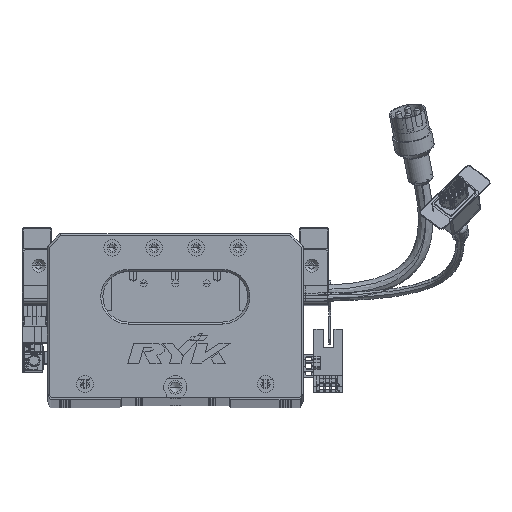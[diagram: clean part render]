
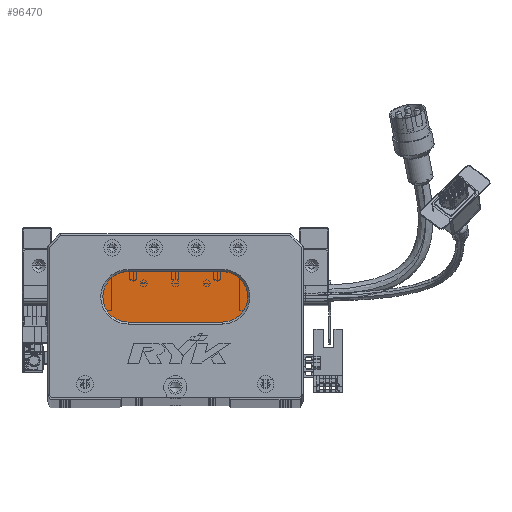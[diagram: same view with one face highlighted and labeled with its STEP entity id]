
A CAD part, top view. The second image highlights one B-rep face of the part: STEP entity #96470.
In plain terms, the highlighted planar face has unit normal (0, 0, 1) as drawn and (0, 0, -1) by its records, which use the part's own axes.
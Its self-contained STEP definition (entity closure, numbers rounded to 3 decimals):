
#2270 = DIRECTION ( 'NONE',  ( -1., 0., 0. ) ) ;
#3527 = ORIENTED_EDGE ( 'NONE', *, *, #63355, .T. ) ;
#6654 = VERTEX_POINT ( 'NONE', #12976 ) ;
#8943 = EDGE_LOOP ( 'NONE', ( #95037, #67700, #3527, #77192, #110587 ) ) ;
#10931 = EDGE_CURVE ( 'NONE', #84602, #6654, #54213, .T. ) ;
#12976 = CARTESIAN_POINT ( 'NONE',  ( 83.5, 60., 13. ) ) ;
#12977 = CIRCLE ( 'NONE', #74508, 12. ) ;
#13782 = EDGE_CURVE ( 'NONE', #6654, #56088, #55098, .T. ) ;
#13933 = DIRECTION ( 'NONE',  ( -1., 0., 0. ) ) ;
#20937 = VECTOR ( 'NONE', #2270, 1000. ) ;
#28141 = VECTOR ( 'NONE', #33871, 1000. ) ;
#31897 = CARTESIAN_POINT ( 'NONE',  ( 83.5, 48., 13. ) ) ;
#33871 = DIRECTION ( 'NONE',  ( 1., 0., 0. ) ) ;
#42463 = VERTEX_POINT ( 'NONE', #101702 ) ;
#44664 = CARTESIAN_POINT ( 'NONE',  ( 38.5, 48., 13. ) ) ;
#47398 = PLANE ( 'NONE',  #89505 ) ;
#48150 = DIRECTION ( 'NONE',  ( 0., 0., -1. ) ) ;
#50319 = CARTESIAN_POINT ( 'NONE',  ( 83.5, 60., 13. ) ) ;
#53450 = DIRECTION ( 'NONE',  ( -1., 0., 0. ) ) ;
#53517 = VERTEX_POINT ( 'NONE', #82571 ) ;
#54213 = LINE ( 'NONE', #50319, #28141 ) ;
#54955 = EDGE_CURVE ( 'NONE', #56088, #42463, #67634, .T. ) ;
#55098 = CIRCLE ( 'NONE', #107791, 12. ) ;
#56088 = VERTEX_POINT ( 'NONE', #86093 ) ;
#57303 = DIRECTION ( 'NONE',  ( -1., 0., 0. ) ) ;
#63355 = EDGE_CURVE ( 'NONE', #42463, #53517, #12977, .T. ) ;
#66523 = DIRECTION ( 'NONE',  ( 0., 0., -1. ) ) ;
#67634 = LINE ( 'NONE', #107673, #20937 ) ;
#67700 = ORIENTED_EDGE ( 'NONE', *, *, #54955, .T. ) ;
#74348 = AXIS2_PLACEMENT_3D ( 'NONE', #44664, #104284, #53450 ) ;
#74508 = AXIS2_PLACEMENT_3D ( 'NONE', #83875, #66523, #13933 ) ;
#75644 = DIRECTION ( 'NONE',  ( -1., 0., 0. ) ) ;
#77192 = ORIENTED_EDGE ( 'NONE', *, *, #93097, .T. ) ;
#82357 = CARTESIAN_POINT ( 'NONE',  ( 83.5, 48., 13. ) ) ;
#82571 = CARTESIAN_POINT ( 'NONE',  ( 26.5, 48., 13. ) ) ;
#83875 = CARTESIAN_POINT ( 'NONE',  ( 38.5, 48., 13. ) ) ;
#84108 = DIRECTION ( 'NONE',  ( 0., 0., -1. ) ) ;
#84602 = VERTEX_POINT ( 'NONE', #111144 ) ;
#86093 = CARTESIAN_POINT ( 'NONE',  ( 83.5, 36., 13. ) ) ;
#88345 = FACE_OUTER_BOUND ( 'NONE', #8943, .T. ) ;
#89505 = AXIS2_PLACEMENT_3D ( 'NONE', #82357, #48150, #57303 ) ;
#93097 = EDGE_CURVE ( 'NONE', #53517, #84602, #98519, .T. ) ;
#95037 = ORIENTED_EDGE ( 'NONE', *, *, #13782, .T. ) ;
#96470 = ADVANCED_FACE ( 'NONE', ( #88345 ), #47398, .T. ) ;
#98519 = CIRCLE ( 'NONE', #74348, 12. ) ;
#101702 = CARTESIAN_POINT ( 'NONE',  ( 38.5, 36., 13. ) ) ;
#104284 = DIRECTION ( 'NONE',  ( 0., 0., -1. ) ) ;
#107673 = CARTESIAN_POINT ( 'NONE',  ( 83.5, 36., 13. ) ) ;
#107791 = AXIS2_PLACEMENT_3D ( 'NONE', #31897, #84108, #75644 ) ;
#110587 = ORIENTED_EDGE ( 'NONE', *, *, #10931, .T. ) ;
#111144 = CARTESIAN_POINT ( 'NONE',  ( 38.5, 60., 13. ) ) ;
